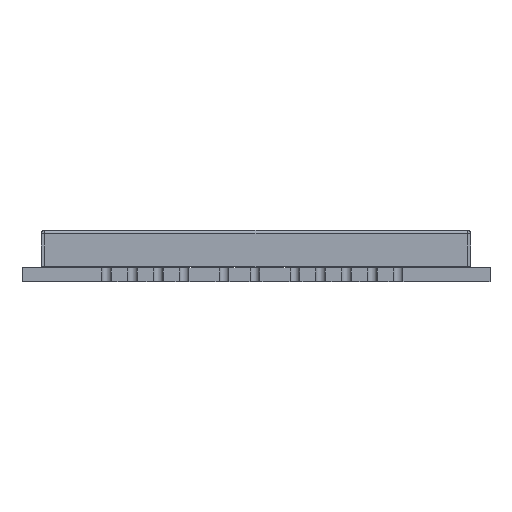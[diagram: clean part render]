
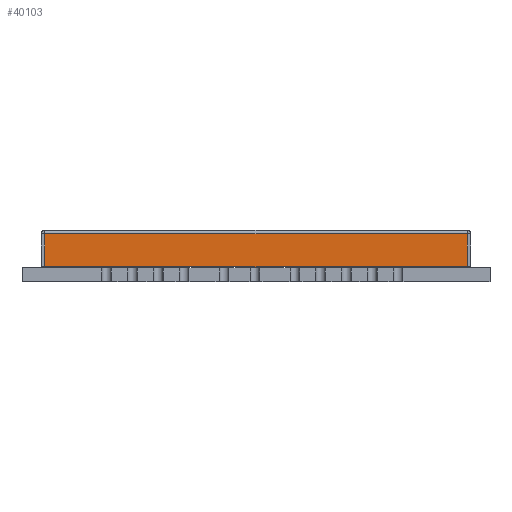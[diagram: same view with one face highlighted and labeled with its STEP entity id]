
A CAD part, front view. The second image highlights one B-rep face of the part: STEP entity #40103.
In plain terms, the highlighted planar face has unit normal (0, -1, 0).
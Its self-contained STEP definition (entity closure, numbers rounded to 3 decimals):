
#17072=DIRECTION('',(-1.,0.,0.));
#17073=VECTOR('',#17072,17.95);
#17074=CARTESIAN_POINT('',(8.975,-10.975,-0.15));
#17075=LINE('',#17074,#17073);
#17090=DIRECTION('',(0.,0.,-1.));
#17091=VECTOR('',#17090,1.4);
#17092=CARTESIAN_POINT('',(-8.975,-10.975,-0.15));
#17093=LINE('',#17092,#17091);
#17094=DIRECTION('',(0.,0.,1.));
#17095=VECTOR('',#17094,1.4);
#17096=CARTESIAN_POINT('',(8.975,-10.975,-1.55));
#17097=LINE('',#17096,#17095);
#17098=DIRECTION('',(1.,0.,0.));
#17099=VECTOR('',#17098,17.95);
#17100=CARTESIAN_POINT('',(-8.975,-10.975,-1.55));
#17101=LINE('',#17100,#17099);
#29927=CARTESIAN_POINT('',(-8.975,-10.975,-0.15));
#29928=CARTESIAN_POINT('',(-8.975,-10.975,-1.55));
#29929=VERTEX_POINT('',#29927);
#29930=VERTEX_POINT('',#29928);
#29931=CARTESIAN_POINT('',(8.975,-10.975,-1.55));
#29932=VERTEX_POINT('',#29931);
#29933=CARTESIAN_POINT('',(8.975,-10.975,-0.15));
#29934=VERTEX_POINT('',#29933);
#40089=CARTESIAN_POINT('',(-8.975,-10.975,0.));
#40090=DIRECTION('',(0.,-1.,0.));
#40091=DIRECTION('',(-1.,0.,0.));
#40092=AXIS2_PLACEMENT_3D('',#40089,#40090,#40091);
#40093=PLANE('',#40092);
#40095=ORIENTED_EDGE('',*,*,#40094,.F.);
#40096=ORIENTED_EDGE('',*,*,#40080,.F.);
#40098=ORIENTED_EDGE('',*,*,#40097,.F.);
#40100=ORIENTED_EDGE('',*,*,#40099,.F.);
#40101=EDGE_LOOP('',(#40095,#40096,#40098,#40100));
#40102=FACE_OUTER_BOUND('',#40101,.F.);
#40103=ADVANCED_FACE('',(#40102),#40093,.T.);
#40080=EDGE_CURVE('',#29934,#29929,#17075,.T.);
#40094=EDGE_CURVE('',#29929,#29930,#17093,.T.);
#40097=EDGE_CURVE('',#29932,#29934,#17097,.T.);
#40099=EDGE_CURVE('',#29930,#29932,#17101,.T.);
